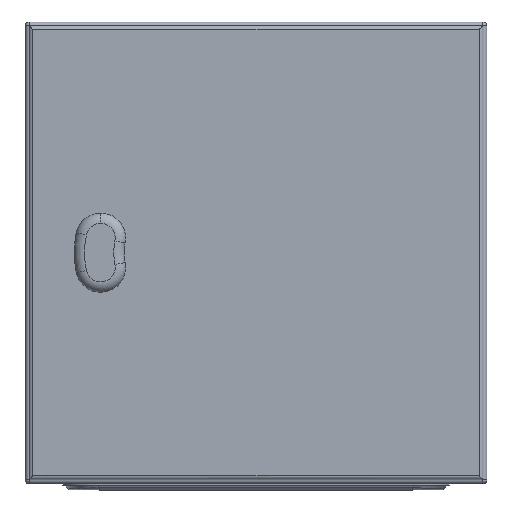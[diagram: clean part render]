
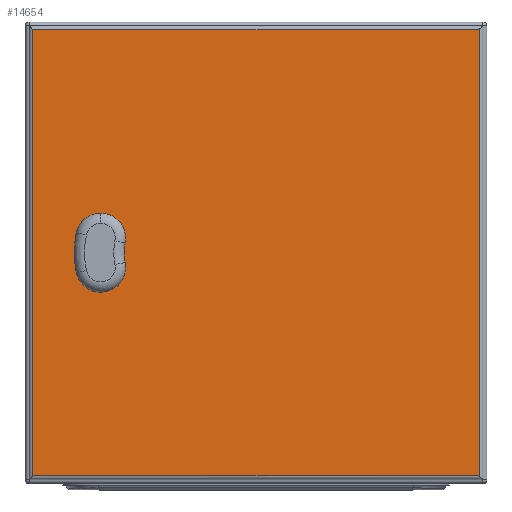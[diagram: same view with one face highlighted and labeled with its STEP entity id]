
A CAD part, top view. The second image highlights one B-rep face of the part: STEP entity #14654.
In plain terms, the highlighted planar face has unit normal (0, 0, 1) as drawn and (0, 0, -1) by its records, which use the part's own axes.
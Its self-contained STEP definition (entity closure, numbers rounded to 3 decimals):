
#246 = CARTESIAN_POINT ( 'NONE',  ( 106.056, 10.05, 0. ) ) ;
#485 = DIRECTION ( 'NONE',  ( 0., 1., 0. ) ) ;
#825 = DIRECTION ( 'NONE',  ( -1., 0., 0. ) ) ;
#1128 = VERTEX_POINT ( 'NONE', #15796 ) ;
#1149 = DIRECTION ( 'NONE',  ( 0., 0., -1. ) ) ;
#1304 = VERTEX_POINT ( 'NONE', #1975 ) ;
#1393 = VERTEX_POINT ( 'NONE', #18154 ) ;
#1694 = ORIENTED_EDGE ( 'NONE', *, *, #2063, .T. ) ;
#1902 = CARTESIAN_POINT ( 'NONE',  ( -145., 147.5, 0. ) ) ;
#1975 = CARTESIAN_POINT ( 'NONE',  ( 95.944, 10.05, 0. ) ) ;
#2035 = VECTOR ( 'NONE', #11302, 1000. ) ;
#2063 = EDGE_CURVE ( 'NONE', #1128, #6283, #7573, .T. ) ;
#2122 = VECTOR ( 'NONE', #9110, 1000. ) ;
#2278 = ORIENTED_EDGE ( 'NONE', *, *, #15620, .F. ) ;
#2576 = CARTESIAN_POINT ( 'NONE',  ( 101., 0., 0. ) ) ;
#2623 = EDGE_CURVE ( 'NONE', #17247, #6675, #15991, .T. ) ;
#2733 = CIRCLE ( 'NONE', #14902, 11.25 ) ;
#2811 = CARTESIAN_POINT ( 'NONE',  ( 147.5, 147.5, 0. ) ) ;
#2834 = CARTESIAN_POINT ( 'NONE',  ( 111.05, -5.056, 0. ) ) ;
#2851 = AXIS2_PLACEMENT_3D ( 'NONE', #9330, #6273, #17853 ) ;
#3278 = CARTESIAN_POINT ( 'NONE',  ( 106.056, -10.05, 0. ) ) ;
#3522 = DIRECTION ( 'NONE',  ( -1., 0., 0. ) ) ;
#3635 = ORIENTED_EDGE ( 'NONE', *, *, #13277, .T. ) ;
#4272 = EDGE_CURVE ( 'NONE', #13856, #11076, #5395, .T. ) ;
#4536 = DIRECTION ( 'NONE',  ( 1., 0., 0. ) ) ;
#4622 = CARTESIAN_POINT ( 'NONE',  ( 145., -147.5, 0. ) ) ;
#5061 = ORIENTED_EDGE ( 'NONE', *, *, #11135, .F. ) ;
#5157 = VECTOR ( 'NONE', #10587, 1000. ) ;
#5212 = CARTESIAN_POINT ( 'NONE',  ( 101., 0., 0. ) ) ;
#5217 = VECTOR ( 'NONE', #4536, 1000. ) ;
#5395 = LINE ( 'NONE', #5483, #2035 ) ;
#5483 = CARTESIAN_POINT ( 'NONE',  ( 90.95, -5.056, 0. ) ) ;
#5496 = AXIS2_PLACEMENT_3D ( 'NONE', #2811, #14437, #11776 ) ;
#5620 = CARTESIAN_POINT ( 'NONE',  ( 90.95, 5.056, 0. ) ) ;
#6228 = CARTESIAN_POINT ( 'NONE',  ( 106.056, 10.05, 0. ) ) ;
#6273 = DIRECTION ( 'NONE',  ( 0., 0., -1. ) ) ;
#6283 = VERTEX_POINT ( 'NONE', #9840 ) ;
#6457 = DIRECTION ( 'NONE',  ( 0., 0., -1. ) ) ;
#6526 = EDGE_LOOP ( 'NONE', ( #3635, #9430, #1694, #14034 ) ) ;
#6579 = ORIENTED_EDGE ( 'NONE', *, *, #15113, .F. ) ;
#6607 = LINE ( 'NONE', #2834, #13418 ) ;
#6675 = VERTEX_POINT ( 'NONE', #16125 ) ;
#6776 = ORIENTED_EDGE ( 'NONE', *, *, #4272, .F. ) ;
#6889 = EDGE_CURVE ( 'NONE', #6283, #14104, #7660, .T. ) ;
#6966 = VECTOR ( 'NONE', #15273, 1000. ) ;
#7157 = VECTOR ( 'NONE', #11961, 1000. ) ;
#7276 = VECTOR ( 'NONE', #485, 1000. ) ;
#7542 = LINE ( 'NONE', #1902, #7276 ) ;
#7573 = LINE ( 'NONE', #4622, #7157 ) ;
#7600 = CARTESIAN_POINT ( 'NONE',  ( 106.056, -10.05, 0. ) ) ;
#7660 = LINE ( 'NONE', #9387, #6966 ) ;
#7974 = ORIENTED_EDGE ( 'NONE', *, *, #10476, .F. ) ;
#8267 = CIRCLE ( 'NONE', #11019, 11.25 ) ;
#8531 = VERTEX_POINT ( 'NONE', #18372 ) ;
#9110 = DIRECTION ( 'NONE',  ( -1., 0., 0. ) ) ;
#9330 = CARTESIAN_POINT ( 'NONE',  ( 101., 0., 0. ) ) ;
#9387 = CARTESIAN_POINT ( 'NONE',  ( -147.5, -145., 0. ) ) ;
#9430 = ORIENTED_EDGE ( 'NONE', *, *, #13341, .T. ) ;
#9840 = CARTESIAN_POINT ( 'NONE',  ( 145., -145., 0. ) ) ;
#9911 = CARTESIAN_POINT ( 'NONE',  ( -145., -145., 0. ) ) ;
#9939 = DIRECTION ( 'NONE',  ( 1., 0., 0. ) ) ;
#10169 = CIRCLE ( 'NONE', #2851, 11.25 ) ;
#10231 = ORIENTED_EDGE ( 'NONE', *, *, #16626, .F. ) ;
#10476 = EDGE_CURVE ( 'NONE', #11076, #1304, #10169, .T. ) ;
#10587 = DIRECTION ( 'NONE',  ( 1., 0., 0. ) ) ;
#11019 = AXIS2_PLACEMENT_3D ( 'NONE', #16456, #15035, #3522 ) ;
#11076 = VERTEX_POINT ( 'NONE', #5620 ) ;
#11135 = EDGE_CURVE ( 'NONE', #1304, #17247, #18539, .T. ) ;
#11302 = DIRECTION ( 'NONE',  ( 0., 1., 0. ) ) ;
#11776 = DIRECTION ( 'NONE',  ( -1., 0., 0. ) ) ;
#11961 = DIRECTION ( 'NONE',  ( 0., -1., 0. ) ) ;
#11962 = PLANE ( 'NONE',  #5496 ) ;
#12055 = AXIS2_PLACEMENT_3D ( 'NONE', #2576, #1149, #9939 ) ;
#12306 = CARTESIAN_POINT ( 'NONE',  ( 95.944, -10.05, 0. ) ) ;
#12364 = VERTEX_POINT ( 'NONE', #12306 ) ;
#12411 = DIRECTION ( 'NONE',  ( 0., -1., 0. ) ) ;
#12593 = VERTEX_POINT ( 'NONE', #7600 ) ;
#13014 = FACE_OUTER_BOUND ( 'NONE', #6526, .T. ) ;
#13108 = FACE_BOUND ( 'NONE', #13737, .T. ) ;
#13277 = EDGE_CURVE ( 'NONE', #14104, #8531, #7542, .T. ) ;
#13341 = EDGE_CURVE ( 'NONE', #8531, #1128, #13537, .T. ) ;
#13418 = VECTOR ( 'NONE', #12411, 1000. ) ;
#13537 = LINE ( 'NONE', #15144, #5157 ) ;
#13737 = EDGE_LOOP ( 'NONE', ( #13964, #2278, #10231, #6579, #15637, #5061, #7974, #6776 ) ) ;
#13856 = VERTEX_POINT ( 'NONE', #16445 ) ;
#13964 = ORIENTED_EDGE ( 'NONE', *, *, #14315, .F. ) ;
#14034 = ORIENTED_EDGE ( 'NONE', *, *, #6889, .T. ) ;
#14104 = VERTEX_POINT ( 'NONE', #9911 ) ;
#14315 = EDGE_CURVE ( 'NONE', #12364, #13856, #2733, .T. ) ;
#14437 = DIRECTION ( 'NONE',  ( 0., 0., -1. ) ) ;
#14654 = ADVANCED_FACE ( 'NONE', ( #13108, #13014 ), #11962, .T. ) ;
#14902 = AXIS2_PLACEMENT_3D ( 'NONE', #5212, #6457, #825 ) ;
#15035 = DIRECTION ( 'NONE',  ( 0., 0., -1. ) ) ;
#15113 = EDGE_CURVE ( 'NONE', #6675, #1393, #6607, .T. ) ;
#15144 = CARTESIAN_POINT ( 'NONE',  ( 147.5, 145., 0. ) ) ;
#15273 = DIRECTION ( 'NONE',  ( -1., 0., 0. ) ) ;
#15620 = EDGE_CURVE ( 'NONE', #12593, #12364, #15952, .T. ) ;
#15637 = ORIENTED_EDGE ( 'NONE', *, *, #2623, .F. ) ;
#15796 = CARTESIAN_POINT ( 'NONE',  ( 145., 145., 0. ) ) ;
#15952 = LINE ( 'NONE', #3278, #2122 ) ;
#15991 = CIRCLE ( 'NONE', #12055, 11.25 ) ;
#16125 = CARTESIAN_POINT ( 'NONE',  ( 111.05, 5.056, 0. ) ) ;
#16445 = CARTESIAN_POINT ( 'NONE',  ( 90.95, -5.056, 0. ) ) ;
#16456 = CARTESIAN_POINT ( 'NONE',  ( 101., 0., 0. ) ) ;
#16626 = EDGE_CURVE ( 'NONE', #1393, #12593, #8267, .T. ) ;
#17247 = VERTEX_POINT ( 'NONE', #6228 ) ;
#17853 = DIRECTION ( 'NONE',  ( 1., 0., 0. ) ) ;
#18154 = CARTESIAN_POINT ( 'NONE',  ( 111.05, -5.056, 0. ) ) ;
#18372 = CARTESIAN_POINT ( 'NONE',  ( -145., 145., 0. ) ) ;
#18539 = LINE ( 'NONE', #246, #5217 ) ;
